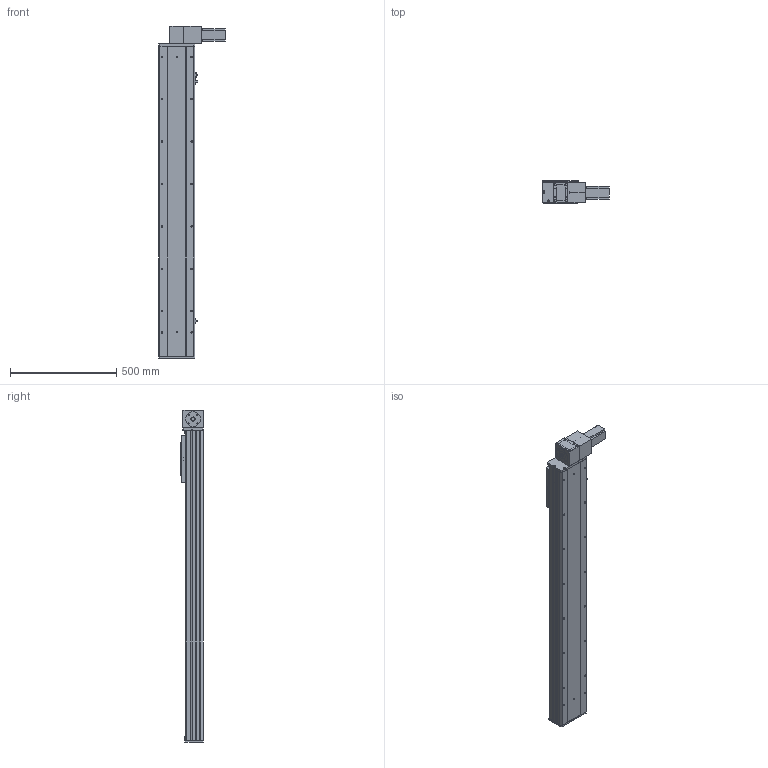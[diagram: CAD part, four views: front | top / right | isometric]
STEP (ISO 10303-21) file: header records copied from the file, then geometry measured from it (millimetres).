
FILE_DESCRIPTION (( 'STEP AP203' ), '1' );
FILE_NAME ('Y170CB-D105-S1150-BD-P400W.STEP', '2020-02-20T08:38:14', ( '微软用户' ), ( '微软中国' ), 'SwSTEP 2.0', 'SolidWorks 2017', '' );
FILE_SCHEMA (( 'CONFIG_CONTROL_DESIGN' ));
Length unit declared in the file: millimetre
Products named in the file (16): Y100-135俋离換覜ん--; san松下电机400不带刹车----; 70CB-掛极-; Y170CB-陔俋离換覜結え---; --70CB --喘謫眊楊擘啣-; Y1埴倛裔; 70CB-耜裔啣-; 70B喘謫眊----; 70C--詩湍揤踡え-; 0B薊粣ん眊-400W--; 70CB--耜裔; Y170CB-D105-S1150-BD-P400W; 70C-雄赽釱-奻-; 0C--雄赽釱俋欶-170; 70CB-詩湍--; B-源倛裔啣
Assembly tree (19 placements, depth 2):
  Y170CB-D105-S1150-BD-P400W
    B-源倛裔啣
    san松下电机400不带刹车----
    70CB-掛极-
    --70CB --喘謫眊楊擘啣-
    70CB-耜裔啣-  x2
    70C--詩湍揤踡え-  x2
    70CB--耜裔
    70C-雄赽釱-奻-
    0C--雄赽釱俋欶-170
    70CB-詩湍--
    Y100-135俋离換覜ん--  x3
    Y170CB-陔俋离換覜結え---
    Y1埴倛裔
    70B喘謫眊----
    0B薊粣ん眊-400W--
Bounding box: 313.5 x 107 x 1566 mm (x, y, z)
Volume: 7417158.3 mm3; surface area: 2531002.5 mm2
Topology: 19 solids, 19 shells, 928 faces, 2450 edges, 1624 vertices
Faces by surface type: cylinder 482, plane 422, cone 24
Entity records: 29011 total; most frequent: CARTESIAN_POINT 5386, DIRECTION 4719, ORIENTED_EDGE 4382, EDGE_CURVE 2191, AXIS2_PLACEMENT_3D 1741, VERTEX_POINT 1454, VECTOR 1237, LINE 1237
